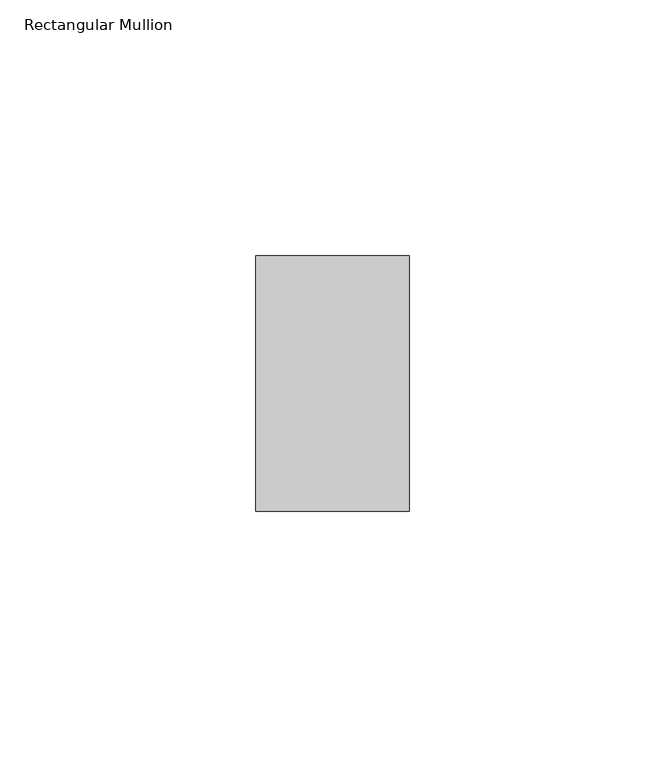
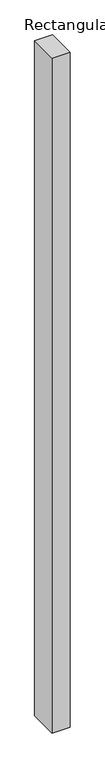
"""IFC4 building model written with IfcOpenShell, lengths in millimetres: member geometry, Rectangular Mullion : ARQ_TV_MULL_50x30mm."""

from ifc_helpers import new_model, si_unit, frame, origin, place, context, project, spatial, polyline, outline, extrude, source, transform, mapped, element, save


def rectangular_mullion_fe8fcd1f(model_context):
    return source(origin(), model_context, "Body", "SweptSolid", [
        extrude(outline(polyline([(0.0, 25.0), (0.0, -25.0), (-30.0, -25.0), (-30.0, 25.0), (0.0, 25.0)])), frame((0.0, 0.0, -1190.8012023), z_axis=(0.0, 0.0, 1.0), x_axis=(1.0, 0.0, 0.0)), (0.0, 0.0, 1.0), 1190.8012023),
    ])


if __name__ == "__main__":
    model = new_model("IFC4")
    model_context = context("Model", 3, world=origin())
    ifc_project = project(units=[si_unit("LENGTHUNIT", "METRE", prefix="MILLI")], contexts=[model_context])
    site = spatial("IfcSite", under=ifc_project)
    building = spatial("IfcBuilding", under=site)
    placement = place(None, origin())
    rectangular_mullion_shape = rectangular_mullion_fe8fcd1f(model_context)
    element("IfcMember", 1, ObjectType="Rectangular Mullion : ARQ_TV_MULL_50x30mm", at=placement, inside=building, context=model_context, shape_type="MappedRepresentation", body=[
        mapped(rectangular_mullion_shape, transform((0.0, 0.0, 0.0), x_axis=(1.0, 0.0, 0.0), y_axis=(0.0, 1.0, 0.0), z_axis=(0.0, 0.0, 1.0))),
    ])
    save(model, "model.ifc")
